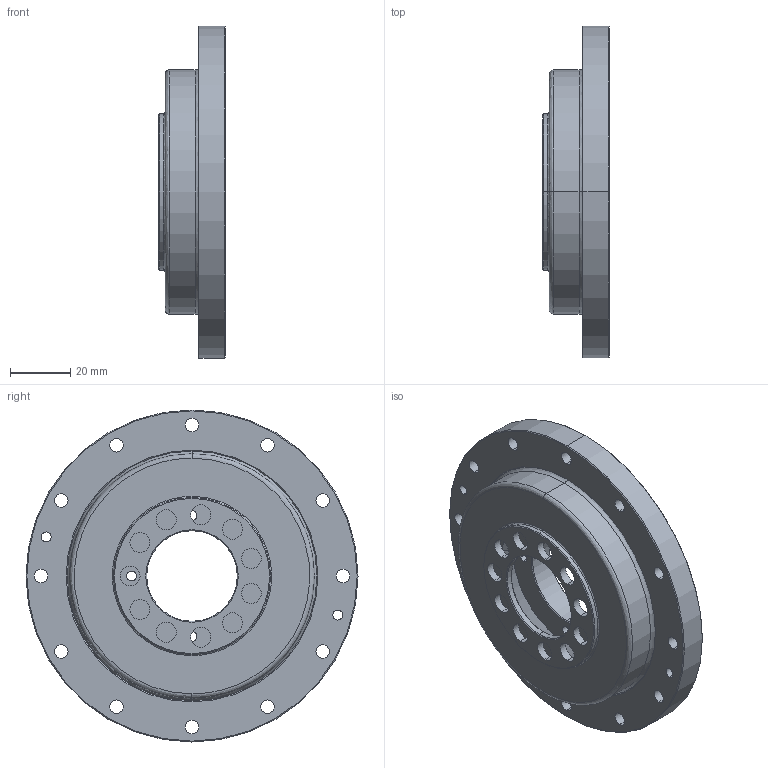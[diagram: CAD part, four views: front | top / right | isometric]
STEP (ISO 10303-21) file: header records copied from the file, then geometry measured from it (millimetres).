
FILE_DESCRIPTION (( 'STEP AP203' ), '1' );
FILE_NAME ('FCD-32-XXX-C.STEP', '2022-12-21T07:24:46', ( '微软用户' ), ( '微软中国' ), 'SwSTEP 2.0', 'SolidWorks 2016', '' );
FILE_SCHEMA (( 'CONFIG_CONTROL_DESIGN' ));
Length unit declared in the file: millimetre
Products named in the file (1): FCD-32-XXX-C
Bounding box: 22 x 110 x 110 mm (x, y, z)
Volume: 76377.8 mm3; surface area: 63122.9 mm2
Topology: 30 solids, 30 shells, 357 faces, 926 edges, 554 vertices
Faces by surface type: cylinder 182, plane 75, bspline 68, cone 32
Entity records: 11758 total; most frequent: CARTESIAN_POINT 3134, DIRECTION 1962, ORIENTED_EDGE 1668, AXIS2_PLACEMENT_3D 852, EDGE_CURVE 834, CIRCLE 562, VERTEX_POINT 554, EDGE_LOOP 444
